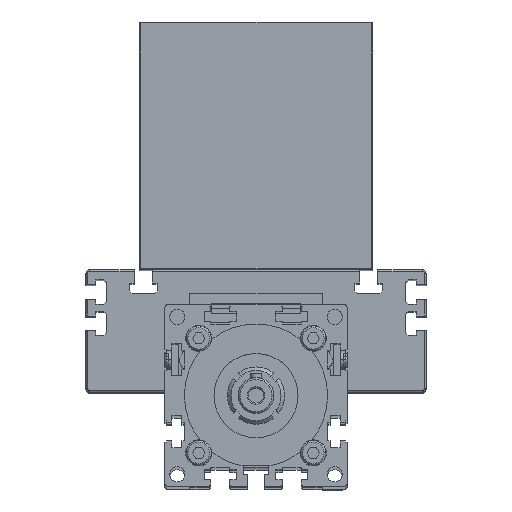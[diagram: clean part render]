
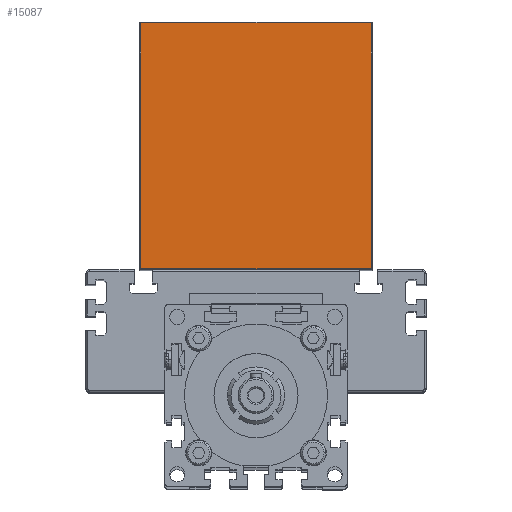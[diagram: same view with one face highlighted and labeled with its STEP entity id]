
A CAD part, top view. The second image highlights one B-rep face of the part: STEP entity #15087.
In plain terms, the highlighted planar face has unit normal (0, 0, 1) as drawn and (0, 0, -1) by its records, which use the part's own axes.
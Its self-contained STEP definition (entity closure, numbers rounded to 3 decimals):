
#2614 = CARTESIAN_POINT ( 'NONE',  ( 0.5, 0., -135. ) ) ;
#3865 = LINE ( 'NONE', #36024, #25278 ) ;
#3926 = CARTESIAN_POINT ( 'NONE',  ( 0.5, 137.9, -135. ) ) ;
#5291 = LINE ( 'NONE', #2614, #37579 ) ;
#8334 = DIRECTION ( 'NONE',  ( 0., 0., 1. ) ) ;
#11166 = PLANE ( 'NONE',  #31019 ) ;
#11859 = EDGE_CURVE ( 'NONE', #21517, #13438, #5291, .T. ) ;
#13207 = CARTESIAN_POINT ( 'NONE',  ( 129.5, 0.5, -135. ) ) ;
#13438 = VERTEX_POINT ( 'NONE', #3926 ) ;
#13835 = VECTOR ( 'NONE', #30060, 1000. ) ;
#13862 = CARTESIAN_POINT ( 'NONE',  ( 130., 0., -135. ) ) ;
#14922 = ORIENTED_EDGE ( 'NONE', *, *, #24638, .T. ) ;
#15087 = ADVANCED_FACE ( 'NONE', ( #31709 ), #11166, .F. ) ;
#16502 = CARTESIAN_POINT ( 'NONE',  ( 129.5, 137.9, -135. ) ) ;
#16539 = DIRECTION ( 'NONE',  ( 0., 1., 0. ) ) ;
#17218 = CARTESIAN_POINT ( 'NONE',  ( 0.5, 0.5, -135. ) ) ;
#18444 = VERTEX_POINT ( 'NONE', #16502 ) ;
#18479 = CARTESIAN_POINT ( 'NONE',  ( 129.5, 0., -135. ) ) ;
#19004 = EDGE_LOOP ( 'NONE', ( #28022, #30328, #19439, #14922 ) ) ;
#19439 = ORIENTED_EDGE ( 'NONE', *, *, #11859, .T. ) ;
#20592 = CARTESIAN_POINT ( 'NONE',  ( 130., 137.9, -135. ) ) ;
#21517 = VERTEX_POINT ( 'NONE', #17218 ) ;
#22762 = EDGE_CURVE ( 'NONE', #23931, #21517, #3865, .T. ) ;
#23445 = DIRECTION ( 'NONE',  ( 1., 0., 0. ) ) ;
#23931 = VERTEX_POINT ( 'NONE', #13207 ) ;
#24071 = DIRECTION ( 'NONE',  ( -1., 0., 0. ) ) ;
#24638 = EDGE_CURVE ( 'NONE', #13438, #18444, #28763, .T. ) ;
#24722 = EDGE_CURVE ( 'NONE', #18444, #23931, #26835, .T. ) ;
#25278 = VECTOR ( 'NONE', #24071, 1000. ) ;
#26835 = LINE ( 'NONE', #18479, #13835 ) ;
#28022 = ORIENTED_EDGE ( 'NONE', *, *, #24722, .T. ) ;
#28763 = LINE ( 'NONE', #20592, #33276 ) ;
#30060 = DIRECTION ( 'NONE',  ( 0., -1., 0. ) ) ;
#30328 = ORIENTED_EDGE ( 'NONE', *, *, #22762, .T. ) ;
#31019 = AXIS2_PLACEMENT_3D ( 'NONE', #13862, #8334, #31346 ) ;
#31346 = DIRECTION ( 'NONE',  ( 0., -1., 0. ) ) ;
#31709 = FACE_OUTER_BOUND ( 'NONE', #19004, .T. ) ;
#33276 = VECTOR ( 'NONE', #23445, 1000. ) ;
#36024 = CARTESIAN_POINT ( 'NONE',  ( 0., 0.5, -135. ) ) ;
#37579 = VECTOR ( 'NONE', #16539, 1000. ) ;
